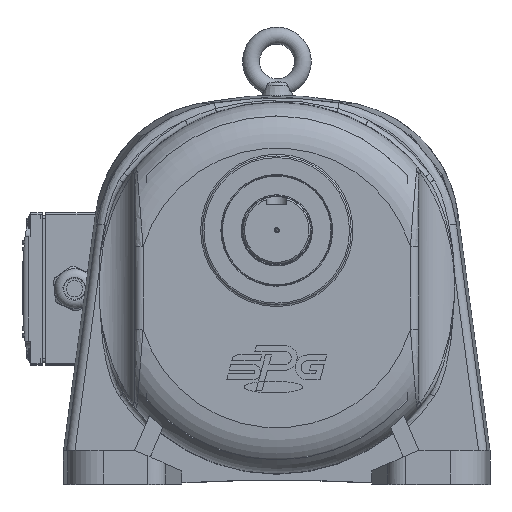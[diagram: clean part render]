
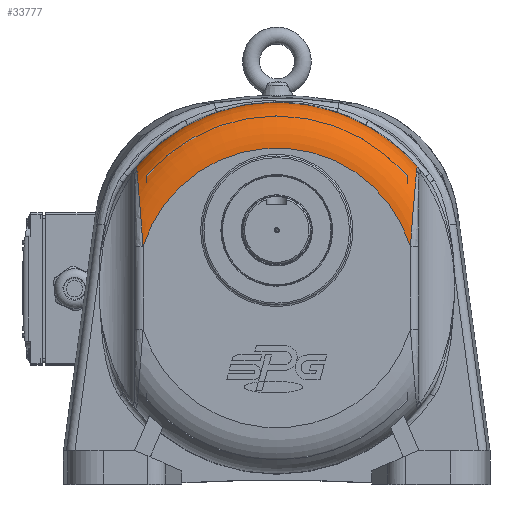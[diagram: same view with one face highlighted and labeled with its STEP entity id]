
A CAD part, top view. The second image highlights one B-rep face of the part: STEP entity #33777.
In plain terms, the highlighted toroidal (fillet/blend) face has major radius 82.678 mm and minor radius 27 mm.
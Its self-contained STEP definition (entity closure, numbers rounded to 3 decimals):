
#1306=TOROIDAL_SURFACE('',#36707,82.678,27.);
#3086=FACE_OUTER_BOUND('',#5082,.T.);
#5082=EDGE_LOOP('',(#26820,#26821,#26822,#26823,#26824,#26825));
#6372=B_SPLINE_CURVE_WITH_KNOTS('',3,(#56706,#56707,#56708,#56709,#56710),
 .UNSPECIFIED.,.F.,.F.,(4,1,4),(-0.783,-0.447,0.),
 .UNSPECIFIED.);
#6376=B_SPLINE_CURVE_WITH_KNOTS('',3,(#56912,#56913,#56914,#56915,#56916,
#56917,#56918,#56919,#56920,#56921),.UNSPECIFIED.,.F.,.F.,(4,1,1,1,1,1,
1,4),(-4.597,-3.776,-3.284,-1.97,
-1.642,-0.657,-0.493,0.),.UNSPECIFIED.);
#6387=B_SPLINE_CURVE_WITH_KNOTS('',3,(#57163,#57164,#57165,#57166,#57167,
#57168,#57169,#57170,#57171),.UNSPECIFIED.,.F.,.F.,(4,1,1,1,1,1,4),(-14.071,
-13.415,-12.758,-12.43,-12.101,
-10.788,-9.474),.UNSPECIFIED.);
#6390=B_SPLINE_CURVE_WITH_KNOTS('',3,(#57257,#57258,#57259,#57260,#57261),
 .UNSPECIFIED.,.F.,.F.,(4,1,4),(-0.783,-0.447,0.),
 .UNSPECIFIED.);
#7561=CIRCLE('',#36638,82.678);
#7608=CIRCLE('',#36708,109.669);
#15421=VERTEX_POINT('',#55527);
#15423=VERTEX_POINT('',#55530);
#15530=VERTEX_POINT('',#56694);
#15531=VERTEX_POINT('',#56705);
#15542=VERTEX_POINT('',#57152);
#15543=VERTEX_POINT('',#57250);
#19489=EDGE_CURVE('',#15423,#15421,#7561,.T.);
#19609=EDGE_CURVE('',#15530,#15531,#6372,.T.);
#19614=EDGE_CURVE('',#15423,#15530,#6376,.T.);
#19629=EDGE_CURVE('',#15542,#15421,#6387,.T.);
#19633=EDGE_CURVE('',#15543,#15542,#6390,.T.);
#19659=EDGE_CURVE('',#15543,#15531,#7608,.T.);
#26820=ORIENTED_EDGE('',*,*,#19659,.T.);
#26821=ORIENTED_EDGE('',*,*,#19609,.F.);
#26822=ORIENTED_EDGE('',*,*,#19614,.F.);
#26823=ORIENTED_EDGE('',*,*,#19489,.T.);
#26824=ORIENTED_EDGE('',*,*,#19629,.F.);
#26825=ORIENTED_EDGE('',*,*,#19633,.F.);
#33777=ADVANCED_FACE('',(#3086),#1306,.T.);
#36638=AXIS2_PLACEMENT_3D('',#55531,#43571,#43572);
#36707=AXIS2_PLACEMENT_3D('',#57370,#43788,#43789);
#36708=AXIS2_PLACEMENT_3D('',#57371,#43790,#43791);
#43571=DIRECTION('center_axis',(0.,0.,
-1.));
#43572=DIRECTION('ref_axis',(0.956,0.295,0.));
#43788=DIRECTION('center_axis',(0.,0.,
1.));
#43789=DIRECTION('ref_axis',(1.,0.,0.));
#43790=DIRECTION('center_axis',(0.,0.,
1.));
#43791=DIRECTION('ref_axis',(-0.765,0.644,0.));
#55527=CARTESIAN_POINT('',(68.706,2.47,59.5));
#55530=CARTESIAN_POINT('',(-89.294,2.47,59.5));
#55531=CARTESIAN_POINT('Origin',(-10.294,-21.914,59.5));
#56694=CARTESIAN_POINT('',(-92.86,47.44,42.318));
#56705=CARTESIAN_POINT('',(-94.206,48.698,33.186));
#56706=CARTESIAN_POINT('Ctrl Pts',(-92.86,47.44,42.318));
#56707=CARTESIAN_POINT('Ctrl Pts',(-92.912,48.09,41.145));
#56708=CARTESIAN_POINT('Ctrl Pts',(-93.151,49.281,38.106));
#56709=CARTESIAN_POINT('Ctrl Pts',(-93.773,49.146,34.864));
#56710=CARTESIAN_POINT('Ctrl Pts',(-94.206,48.698,33.186));
#56912=CARTESIAN_POINT('Ctrl Pts',(-89.294,2.47,59.5));
#56913=CARTESIAN_POINT('Ctrl Pts',(-89.469,5.263,59.5));
#56914=CARTESIAN_POINT('Ctrl Pts',(-89.785,9.768,59.415));
#56915=CARTESIAN_POINT('Ctrl Pts',(-90.491,18.901,58.681));
#56916=CARTESIAN_POINT('Ctrl Pts',(-91.128,26.511,57.228));
#56917=CARTESIAN_POINT('Ctrl Pts',(-91.883,35.509,53.662));
#56918=CARTESIAN_POINT('Ctrl Pts',(-92.288,40.375,50.691));
#56919=CARTESIAN_POINT('Ctrl Pts',(-92.657,44.909,46.159));
#56920=CARTESIAN_POINT('Ctrl Pts',(-92.784,46.485,44.041));
#56921=CARTESIAN_POINT('Ctrl Pts',(-92.86,47.44,42.318));
#57152=CARTESIAN_POINT('',(72.273,47.44,42.318));
#57163=CARTESIAN_POINT('Ctrl Pts',(72.273,47.44,42.318));
#57164=CARTESIAN_POINT('Ctrl Pts',(72.171,46.167,44.615));
#57165=CARTESIAN_POINT('Ctrl Pts',(71.901,42.821,48.704));
#57166=CARTESIAN_POINT('Ctrl Pts',(71.476,37.679,52.331));
#57167=CARTESIAN_POINT('Ctrl Pts',(71.107,33.258,54.554));
#57168=CARTESIAN_POINT('Ctrl Pts',(70.541,26.513,57.223));
#57169=CARTESIAN_POINT('Ctrl Pts',(69.658,15.977,59.239));
#57170=CARTESIAN_POINT('Ctrl Pts',(68.987,6.938,59.5));
#57171=CARTESIAN_POINT('Ctrl Pts',(68.706,2.47,59.5));
#57250=CARTESIAN_POINT('',(73.618,48.698,33.186));
#57257=CARTESIAN_POINT('Ctrl Pts',(73.618,48.698,33.186));
#57258=CARTESIAN_POINT('Ctrl Pts',(73.294,49.034,34.445));
#57259=CARTESIAN_POINT('Ctrl Pts',(72.625,49.352,37.649));
#57260=CARTESIAN_POINT('Ctrl Pts',(72.342,48.306,40.754));
#57261=CARTESIAN_POINT('Ctrl Pts',(72.273,47.44,42.318));
#57370=CARTESIAN_POINT('Origin',(-10.294,-21.914,32.5));
#57371=CARTESIAN_POINT('Origin',(-10.294,-21.914,33.186));
